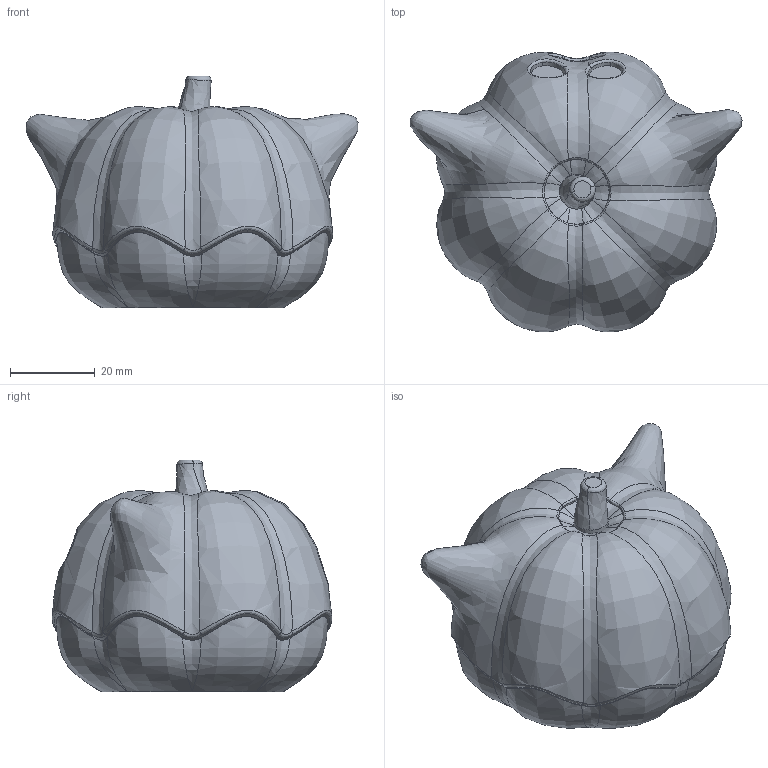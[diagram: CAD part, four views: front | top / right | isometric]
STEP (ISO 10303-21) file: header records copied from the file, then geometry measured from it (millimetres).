
FILE_DESCRIPTION (( 'STEP AP214' ), '1' );
FILE_NAME ('booghostpumpkin_STEP.STEP', '2023-10-04T16:53:59', ( '' ), ( '' ), 'SwSTEP 2.0', 'SolidWorks 2023', '' );
FILE_SCHEMA (( 'AUTOMOTIVE_DESIGN' ));
Length unit declared in the file: millimetre
Products named in the file (1): booghostpumpkin_STEP
Bounding box: 78.46 x 66.14 x 54.8 mm (x, y, z)
Volume: 131229.3 mm3; surface area: 26420 mm2
Topology: 6 solids, 6 shells, 170 faces, 410 edges, 244 vertices
Faces by surface type: bspline 139, plane 15, cylinder 12, cone 4
Entity records: 24844 total; most frequent: CARTESIAN_POINT 21897, ORIENTED_EDGE 804, EDGE_CURVE 402, B_SPLINE_CURVE_WITH_KNOTS 286, DIRECTION 264, VERTEX_POINT 244, EDGE_LOOP 172, FACE_OUTER_BOUND 170
